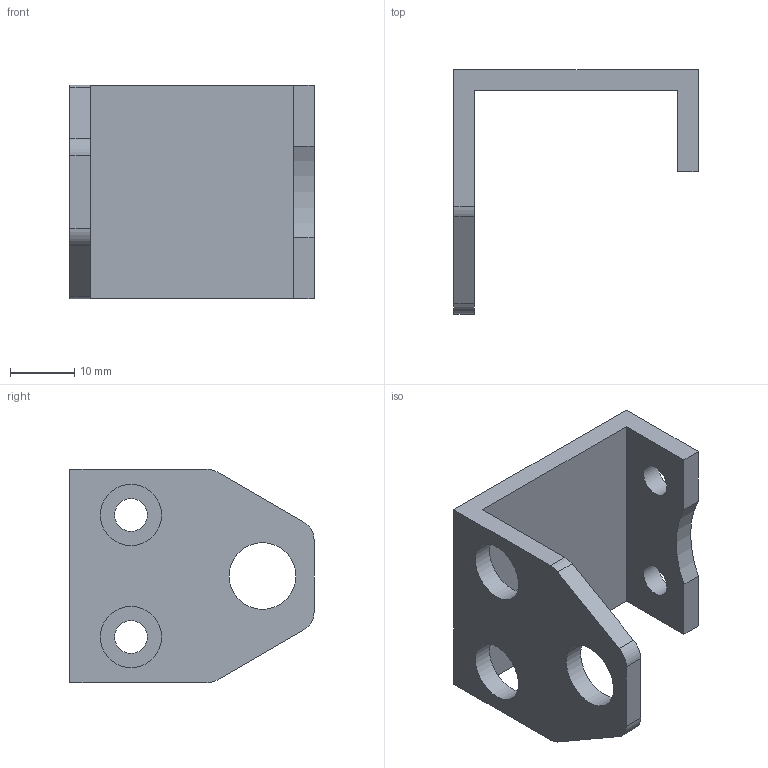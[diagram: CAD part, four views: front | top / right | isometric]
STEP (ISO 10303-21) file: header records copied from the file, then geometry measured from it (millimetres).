
FILE_DESCRIPTION((''),'2;1');
FILE_NAME('\\TSD\DFS$\TSHS\Staff\dcollins\Desktop\mastercam_evaluation\gearbox_encoder bracket.stp','2013-11-04T06:59:05',('DCOLLINS'),(''),'Autodesk Inventor 2013','Autodesk Inventor 2013','');
FILE_SCHEMA(('AUTOMOTIVE_DESIGN { 1 0 10303 214 1 1 1 1 }'));
Length unit declared in the file: inch
Products named in the file (1): gearbox_encoder bracket
Bounding box: 38.1 x 38.1 x 33.34 mm (x, y, z)
Volume: 7703.1 mm3; surface area: 5960.8 mm2
Topology: 1 solids, 1 shells, 23 faces, 63 edges, 42 vertices
Faces by surface type: plane 13, cylinder 10
Full cylindrical faces by diameter (mm): 5.105 x2, 9.525 x2, 10.414 x1
Entity records: 760 total; most frequent: DIRECTION 126, CARTESIAN_POINT 124, ORIENTED_EDGE 116, EDGE_CURVE 58, AXIS2_PLACEMENT_3D 44, VERTEX_POINT 42, EDGE_LOOP 38, VECTOR 38
